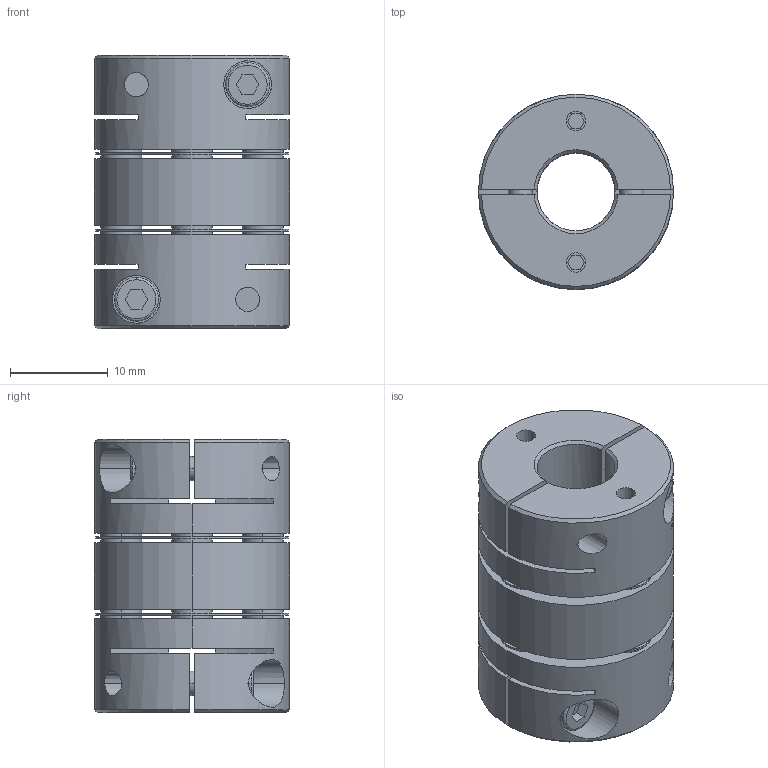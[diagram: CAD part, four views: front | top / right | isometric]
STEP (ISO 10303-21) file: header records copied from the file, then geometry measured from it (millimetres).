
FILE_DESCRIPTION((''),'2;1');
FILE_NAME('LA-20LS-8×8.stp','2015-10-05T09:55:38',(''),(''),'AutoCAD STEP 2000i','AutoCAD 2000i',', , ');
FILE_SCHEMA(('CONFIG_CONTROL_DESIGN'));
Length unit declared in the file: millimetre
Products named in the file (5): LA-20LS-7×8; 忣兜1; HUB-7-2; HUB-7-1; HUB-4-1
Assembly tree (4 placements, depth 2):
  LA-20LS-7×8
    忣兜1
    HUB-7-2
    HUB-7-1
    HUB-4-1
Bounding box: 20 x 20 x 28 mm (x, y, z)
Volume: 6323.6 mm3; surface area: 6060.5 mm2
Topology: 1 solids, 1 shells, 276 faces, 718 edges, 496 vertices
Faces by surface type: cylinder 128, plane 120, torus 16, cone 12
Entity records: 9135 total; most frequent: CARTESIAN_POINT 1893, DIRECTION 1580, ORIENTED_EDGE 1400, EDGE_CURVE 700, AXIS2_PLACEMENT_3D 613, VERTEX_POINT 464, EDGE_LOOP 356, VECTOR 354
